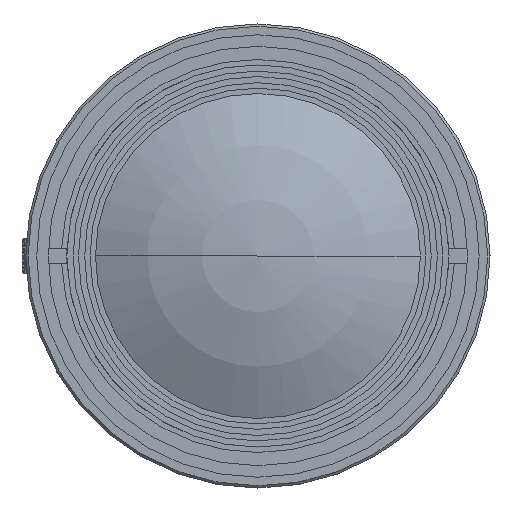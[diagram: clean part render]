
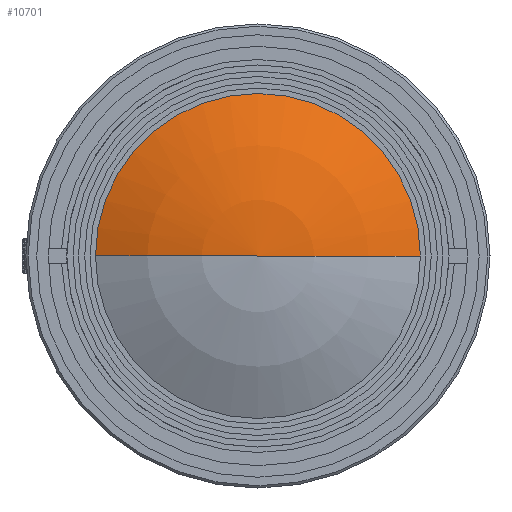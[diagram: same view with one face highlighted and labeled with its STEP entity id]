
A CAD part, left-side view. The second image highlights one B-rep face of the part: STEP entity #10701.
In plain terms, the highlighted spherical face has radius 45.399 mm.
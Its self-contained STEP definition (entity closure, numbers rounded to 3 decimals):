
#1895=SPHERICAL_SURFACE('',#43208,45.399);
#6587=CIRCLE('',#43204,21.);
#6588=CIRCLE('',#43206,45.399);
#6589=CIRCLE('',#43207,45.399);
#8533=FACE_OUTER_BOUND('',#14113,.T.);
#10701=ADVANCED_FACE('',(#8533),#1895,.T.);
#14113=EDGE_LOOP('',(#20656,#20657,#20658));
#20656=ORIENTED_EDGE('',*,*,#34658,.F.);
#20657=ORIENTED_EDGE('',*,*,#34659,.F.);
#20658=ORIENTED_EDGE('',*,*,#34657,.F.);
#29632=VERTEX_POINT('',#64273);
#29635=VERTEX_POINT('',#64278);
#29636=VERTEX_POINT('',#64282);
#34657=EDGE_CURVE('',#29635,#29632,#6587,.T.);
#34658=EDGE_CURVE('',#29636,#29635,#6588,.T.);
#34659=EDGE_CURVE('',#29632,#29636,#6589,.T.);
#43204=AXIS2_PLACEMENT_3D('',#64279,#48584,#48585);
#43206=AXIS2_PLACEMENT_3D('',#64281,#48588,#48589);
#43207=AXIS2_PLACEMENT_3D('',#64283,#48590,#48591);
#43208=AXIS2_PLACEMENT_3D('',#64284,#48592,#48593);
#48584=DIRECTION('',(1.,0.,0.));
#48585=DIRECTION('',(0.,1.,0.));
#48588=DIRECTION('',(0.,0.,-1.));
#48589=DIRECTION('',(-1.,0.,0.));
#48590=DIRECTION('',(0.,0.,-1.));
#48591=DIRECTION('',(-0.887,-0.463,0.));
#48592=DIRECTION('',(1.,0.,0.));
#48593=DIRECTION('',(0.,-1.,0.));
#64273=CARTESIAN_POINT('',(-0.317,-21.,0.));
#64278=CARTESIAN_POINT('',(-0.317,21.,0.));
#64279=CARTESIAN_POINT('',(-0.317,0.,0.));
#64281=CARTESIAN_POINT('',(39.933,0.,0.));
#64282=CARTESIAN_POINT('',(-5.466,0.,0.));
#64283=CARTESIAN_POINT('',(39.933,0.,0.));
#64284=CARTESIAN_POINT('',(39.933,0.,0.));
